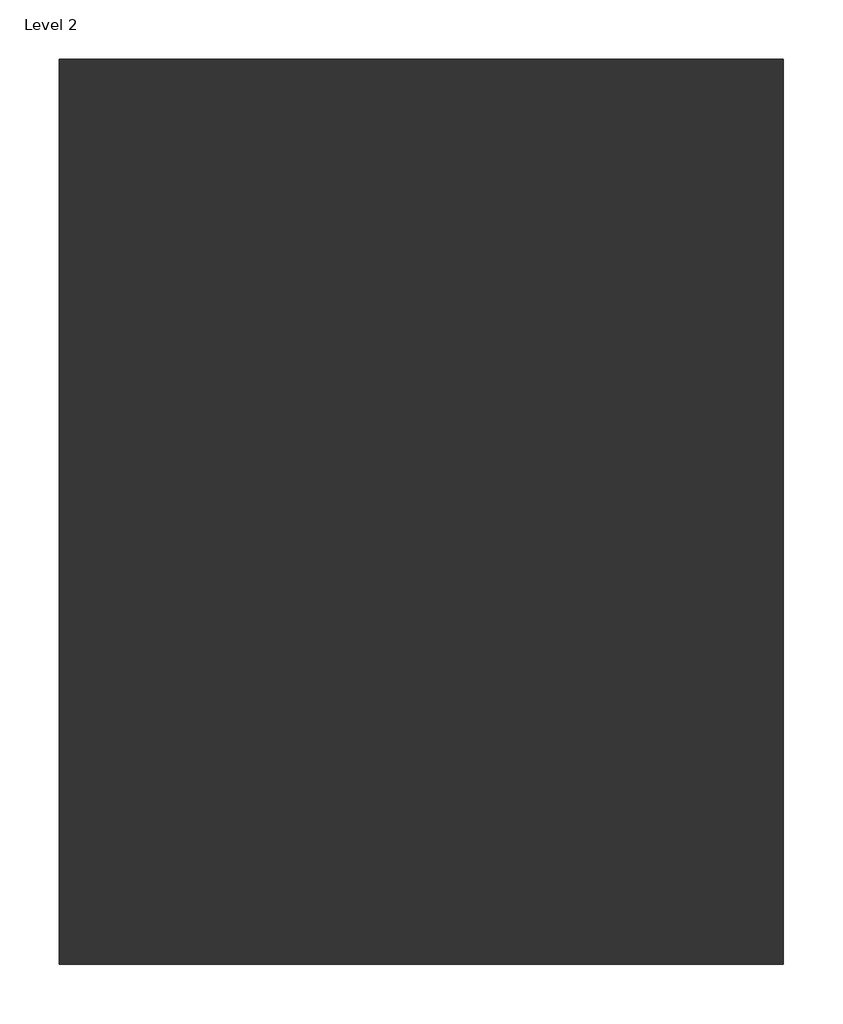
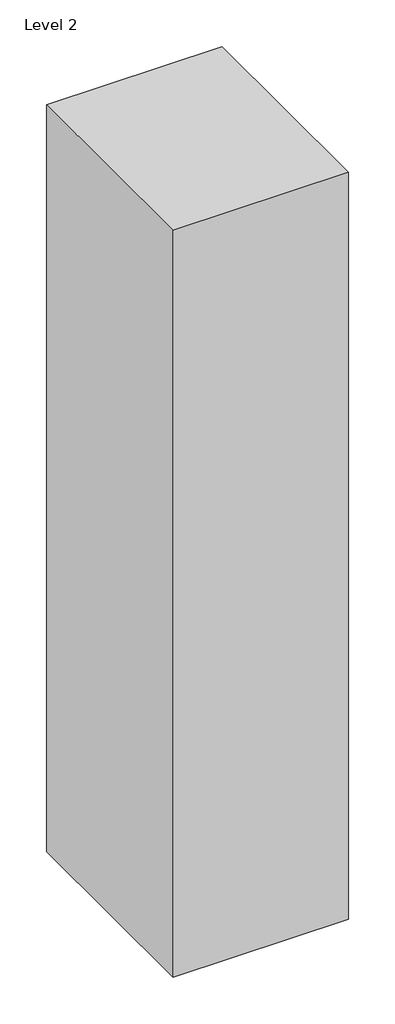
# One storey: 1 column.
"""IFC4 building model written with IfcOpenShell, lengths in millimetres."""

import ifcopenshell
import ifcopenshell.guid

model = None  # the IFC model being written
_history = None  # IfcOwnerHistory: only IFC2X3 demands one
_inside = {}  # id of a spatial element -> (the spatial element, [elements in it])
_under = {}  # id of a project, library or spatial element -> (it, [spatial elements below it])
_declared = {}  # id of a project -> (the project, [libraries it declares])
_typed = {}  # id of a type object -> (the type object, [elements of that type])
_made_of = {}  # id of a material, layer set ... -> (it, [elements and type objects made of it])


def new_model(schema):
    """Start an empty IFC model of exactly this schema.

    Asked for "IFC4X3", IfcOpenShell would pick the latest addendum, in which some entities
    have other attributes; the version numbers below select the first issue.
    IFC2X3 requires an IfcOwnerHistory on every rooted entity: one is made here for all.
    """
    global model, _history
    if schema == "IFC4X3":
        model = ifcopenshell.file(schema_version=(4, 3, 0, 0))
    else:
        model = ifcopenshell.file(schema=schema)
    _inside.clear()
    _under.clear()
    _declared.clear()
    _typed.clear()
    _made_of.clear()
    _history = None
    if model.schema == "IFC2X3":
        org = make("IfcOrganization", Name="unknown")
        user = make(
            "IfcPersonAndOrganization",
            ThePerson=make("IfcPerson", FamilyName="unknown"),
            TheOrganization=org,
        )
        app = make(
            "IfcApplication",
            ApplicationDeveloper=org,
            Version="unknown",
            ApplicationFullName="unknown",
            ApplicationIdentifier="unknown",
        )
        _history = make(
            "IfcOwnerHistory",
            OwningUser=user,
            OwningApplication=app,
            ChangeAction="ADDED",
            CreationDate=0,
        )
    return model


def make(cls, **values):
    """One entity of the class cls with the attributes given. An attribute that is None is left unset."""
    return model.create_entity(
        cls, **{name: value for name, value in values.items() if value is not None}
    )


def rooted(cls, **values):
    """An entity with a GlobalId (a new one), such as an element, a storey or a relation."""
    return make(cls, GlobalId=ifcopenshell.guid.new(), OwnerHistory=_history, **values)


def si_unit(unit_type, name, prefix=None):
    """IfcSIUnit, for example si_unit("LENGTHUNIT", "METRE", prefix="MILLI")."""
    return make("IfcSIUnit", UnitType=unit_type, Prefix=prefix, Name=name)


def assignment(units):
    """IfcUnitAssignment: the units of a project."""
    return None if units is None else make("IfcUnitAssignment", Units=units)


def point(xyz):
    """IfcCartesianPoint."""
    return None if xyz is None else make("IfcCartesianPoint", Coordinates=xyz)


def direction(xyz):
    """IfcDirection."""
    return None if xyz is None else make("IfcDirection", DirectionRatios=xyz)


def frame(location, z_axis=None, x_axis=None):
    """IfcAxis2Placement3D, a coordinate frame: its origin and axes. An axis left out is left unset."""
    return make(
        "IfcAxis2Placement3D",
        Location=point(location),
        Axis=direction(z_axis),
        RefDirection=direction(x_axis),
    )


def origin():
    """The frame at (0, 0, 0) with its axes left unset."""
    return frame((0.0, 0.0, 0.0))


def place(relative_to, where):
    """IfcLocalPlacement: puts the frame where relative to a parent placement (None: the world)."""
    return make(
        "IfcLocalPlacement", PlacementRelTo=relative_to, RelativePlacement=where
    )


def context(
    kind, dimensions, precision=None, world=None, true_north=None, identifier=None
):
    """IfcGeometricRepresentationContext, for example the 3D "Model" context."""
    return make(
        "IfcGeometricRepresentationContext",
        ContextIdentifier=identifier,
        ContextType=kind,
        CoordinateSpaceDimension=dimensions,
        Precision=precision,
        WorldCoordinateSystem=world,
        TrueNorth=true_north,
    )


def project(units=None, contexts=None):
    """IfcProject with its units and contexts."""
    return rooted(
        "IfcProject",
        Name="project",
        RepresentationContexts=contexts,
        UnitsInContext=assignment(units),
    )


def spatial(cls, under=None, at=None, **own):
    """A site, building, storey or space (cls), placed at a placement, below another one or the project."""
    s = rooted(cls, ObjectPlacement=at, **own)
    if under is not None:
        _under.setdefault(under.id(), (under, []))[1].append(s)
    return s


def polyline(points):
    """IfcPolyline through the points."""
    return make("IfcPolyline", Points=[point(p) for p in points])


def outline(outer, holes=None, kind="AREA"):
    """IfcArbitraryClosedProfileDef: a profile drawn as a closed curve; with holes, ...WithVoids."""
    if holes is None:
        return make("IfcArbitraryClosedProfileDef", ProfileType=kind, OuterCurve=outer)
    return make(
        "IfcArbitraryProfileDefWithVoids",
        ProfileType=kind,
        OuterCurve=outer,
        InnerCurves=holes,
    )


def extrude(swept, where, along, depth):
    """IfcExtrudedAreaSolid: the profile swept, set in the frame where, extruded along a direction by depth."""
    return make(
        "IfcExtrudedAreaSolid",
        SweptArea=swept,
        Position=where,
        ExtrudedDirection=direction(along),
        Depth=depth,
    )


def shape(context_of_items, identifier, shape_type, items):
    """IfcShapeRepresentation: the items that make up one representation, for example the "Body"."""
    return make(
        "IfcShapeRepresentation",
        ContextOfItems=context_of_items,
        RepresentationIdentifier=identifier,
        RepresentationType=shape_type,
        Items=items,
    )


def source(mapping_origin, context_of_items, identifier, shape_type, items):
    """IfcRepresentationMap: a shape defined once, which mapped items show again and again."""
    return make(
        "IfcRepresentationMap",
        MappingOrigin=mapping_origin,
        MappedRepresentation=shape(context_of_items, identifier, shape_type, items),
    )


def transform(
    local_origin,
    x_axis=None,
    y_axis=None,
    z_axis=None,
    scale=None,
    scale2=None,
    scale3=None,
    uniform=True,
):
    """IfcCartesianTransformationOperator3D, or its non-uniform kind. x_axis, y_axis, z_axis: its Axis1, 2, 3."""
    if uniform:
        return make(
            "IfcCartesianTransformationOperator3D",
            Axis1=direction(x_axis),
            Axis2=direction(y_axis),
            LocalOrigin=point(local_origin),
            Scale=scale,
            Axis3=direction(z_axis),
        )
    return make(
        "IfcCartesianTransformationOperator3DnonUniform",
        Axis1=direction(x_axis),
        Axis2=direction(y_axis),
        LocalOrigin=point(local_origin),
        Scale=scale,
        Axis3=direction(z_axis),
        Scale2=scale2,
        Scale3=scale3,
    )


def mapped(mapping_source, mapping_target):
    """IfcMappedItem: shows the shape of a source again, moved by a transform."""
    return make(
        "IfcMappedItem", MappingSource=mapping_source, MappingTarget=mapping_target
    )


def made_of(thing, what):
    """Note that an element or type object is made of a material, layer set ...; save() writes the relation."""
    if what is not None:
        _made_of.setdefault(what.id(), (what, []))[1].append(thing)
    return thing


def element(
    cls,
    number,
    at=None,
    inside=None,
    cuts=None,
    type_object=None,
    material=None,
    context=None,
    identifier="Body",
    shape_type=None,
    held_by="IfcProductDefinitionShape",
    body=None,
    shapes=None,
    **own,
):
    """One element of the class cls, such as IfcWall. Its Tag is "e" and its number.

    at: its placement. inside: the storey or other place that contains it. cuts: it is an
    opening in that element (IfcRelVoidsElement). A single representation is given by context,
    identifier, shape_type and body (its items); several are given by shapes. held_by: the class
    of the entity that holds the representations. save() writes the other relations.
    """
    e = rooted(cls, Tag="e%d" % number, ObjectPlacement=at, **own)
    if body is not None:
        shapes = [shape(context, identifier, shape_type, body)]
    if shapes is not None:
        e.Representation = make(held_by, Representations=shapes)
    if inside is not None:
        _inside.setdefault(inside.id(), (inside, []))[1].append(e)
    if cuts is not None:
        rooted(
            "IfcRelVoidsElement", RelatingBuildingElement=cuts, RelatedOpeningElement=e
        )
    if type_object is not None:
        _typed.setdefault(type_object.id(), (type_object, []))[1].append(e)
    return made_of(e, material)


def aggregate(whole, parts):
    """IfcRelAggregates: a whole, such as a stair, and the parts it consists of."""
    return rooted("IfcRelAggregates", RelatingObject=whole, RelatedObjects=parts)


def save(model, path):
    """Write the relations noted so far, then the file.

    IfcRelAggregates (storeys below a building ...), IfcRelContainedInSpatialStructure (elements
    in a storey), IfcRelDefinesByType, IfcRelAssociatesMaterial and IfcRelDeclares: one each for
    every whole, place, type object, material and project.
    """
    for whole, parts in _under.values():
        aggregate(whole, parts)
    for where, things in _inside.values():
        rooted(
            "IfcRelContainedInSpatialStructure",
            RelatedElements=things,
            RelatingStructure=where,
        )
    for kind, things in _typed.values():
        rooted("IfcRelDefinesByType", RelatedObjects=things, RelatingType=kind)
    for what, things in _made_of.values():
        rooted("IfcRelAssociatesMaterial", RelatedObjects=things, RelatingMaterial=what)
    for by, libraries in _declared.values():
        rooted("IfcRelDeclares", RelatingContext=by, RelatedDefinitions=libraries)
    model.write(path)


def concrete_rectangular_column_24_x_30_a5d83863(model_context):
    return source(origin(), model_context, "Body", "SweptSolid", [
        extrude(outline(polyline([(304.8, 381.0), (304.8, -381.0), (-304.8, -381.0), (-304.8, 381.0), (304.8, 381.0)])), frame((0.0, 0.0, 3048.0), z_axis=(0.0, 0.0, 1.0), x_axis=(1.0, 0.0, 0.0)), (0.0, 0.0, 1.0), 2743.2),
    ])


model = new_model("IFC4")

# Units and contexts
model_context = context("Model", 3, world=origin())
ifc_project = project(units=[si_unit("LENGTHUNIT", "METRE", prefix="MILLI")], contexts=[model_context])

# Site, building, storey
site = spatial("IfcSite", under=ifc_project)
building = spatial("IfcBuilding", under=site)
storey = spatial("IfcBuildingStorey", under=building, Name="Level 2", Elevation=3048.0)

# Column
placement = place(None, origin())
concrete_rectangular_column_24_x_30_shape = concrete_rectangular_column_24_x_30_a5d83863(model_context)
element("IfcColumn", 1, ObjectType="Concrete-Rectangular-Column : 24 x 30", at=placement, inside=storey, context=model_context, shape_type="MappedRepresentation", body=[
    mapped(concrete_rectangular_column_24_x_30_shape, transform((-14228.1297008, 11271.7931647, 0.0), x_axis=(1.0, 0.0, 0.0), y_axis=(0.0, 1.0, 0.0), z_axis=(0.0, 0.0, 1.0))),
])

save(model, "model.ifc")
